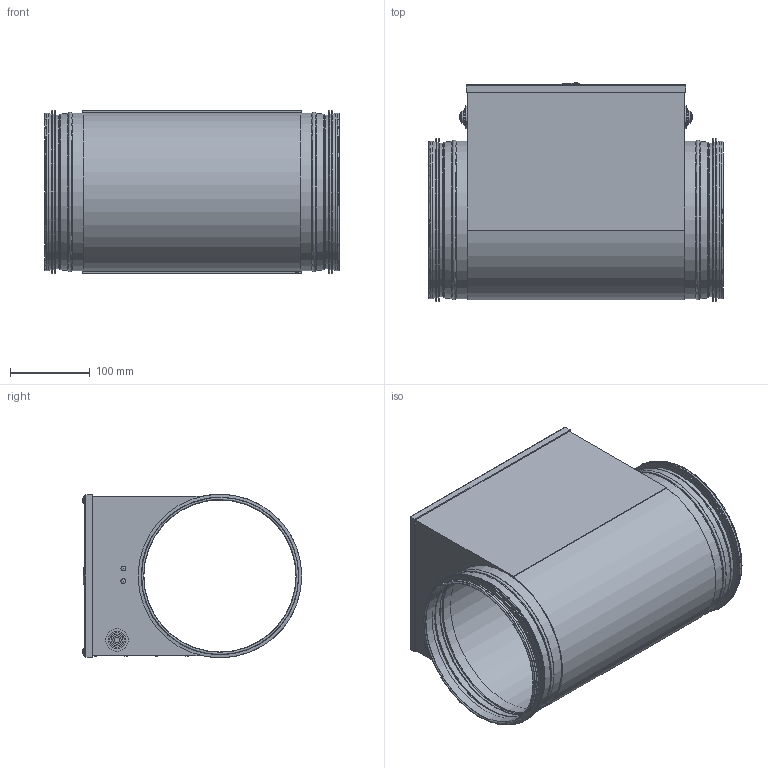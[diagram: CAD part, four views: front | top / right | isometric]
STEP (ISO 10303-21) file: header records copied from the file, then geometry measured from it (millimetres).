
FILE_DESCRIPTION(/* description */ (''),/* implementation_level */ '2;1');
FILE_NAME(/* name */ 'C:\WF Home\Thomas Mønsted\01 - Ventilation\Ventmatica\063224 - 230V Ø200 on_off _max. 1800 watt.stp',/* time_stamp */ '2020-05-14T13:40:04+02:00',/* author */ ('3113thmo'),/* organization */ (''),/* preprocessor_version */ 'ST-DEVELOPER v16.13',/* originating_system */ 'Autodesk Inventor 2018',/* authorisation */ '');
FILE_SCHEMA (('AUTOMOTIVE_DESIGN { 1 0 10303 214 3 1 1 }'));
Length unit declared in the file: millimetre
Products named in the file (1): 063224 - 230V Ø200 on_off _max. 1800 watt
Bounding box: 369.99 x 275.83 x 205.6 mm (x, y, z)
Volume: 5471206 mm3; surface area: 602133.3 mm2
Topology: 1 solids, 3 shells, 349 faces, 894 edges, 588 vertices
Faces by surface type: plane 185, bspline 74, cylinder 52, torus 24, cone 12, sphere 2
Full cylindrical faces by diameter (mm): 7 x2, 8.2 x2, 10 x1, 10.5 x2, 12 x1, 15 x2, 18 x2, 22 x2, 28.5 x2, 191.2 x2, 192.6 x2, 196.6 x5, 198 x4, 205.6 x4
Entity records: 12709 total; most frequent: CARTESIAN_POINT 4336, ORIENTED_EDGE 1608, DIRECTION 1568, EDGE_CURVE 804, AXIS2_PLACEMENT_3D 619, VERTEX_POINT 576, EDGE_LOOP 470, STYLED_ITEM 350
